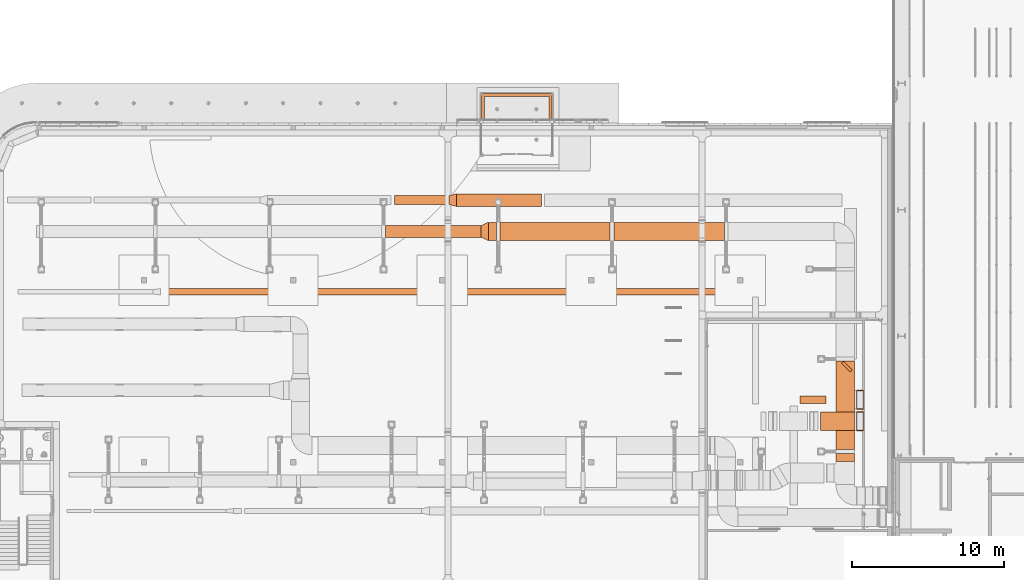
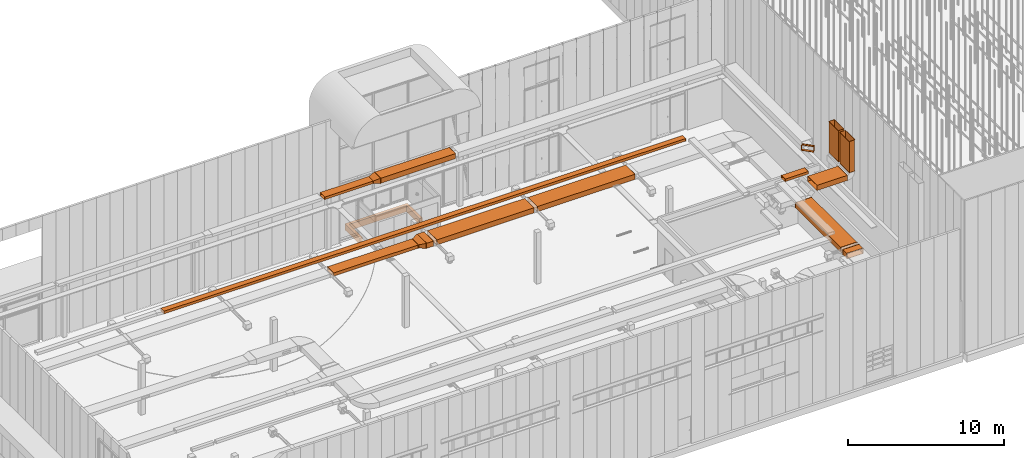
# One storey, part 300 of 302: 17 proxies.
"""IFC2X3 building model written with IfcOpenShell, lengths in metres."""

from ifc_helpers import new_model, entity, si_unit, converted_unit, derived_unit, direction, frame, origin, place, context, subcontext, project, spatial, face_set, faceted_brep, surface_model, type_object, element, save


model = new_model("IFC2X3")

# Units and contexts
model_context = context("Model", 3, precision=1e-05, world=origin(), true_north=direction((6.12303176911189e-17, 1.0)))
body_context = subcontext(model_context, "Body", "Model", "MODEL_VIEW")
ifc_project = project(units=[si_unit("LENGTHUNIT", "METRE"), si_unit("AREAUNIT", "SQUARE_METRE"), si_unit("VOLUMEUNIT", "CUBIC_METRE"), converted_unit("PLANEANGLEUNIT", "DEGREE", entity("IfcRatioMeasure", 0.0174532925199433), si_unit("PLANEANGLEUNIT", "RADIAN"), dimensions=[0, 0, 0, 0, 0, 0, 0]), si_unit("MASSUNIT", "GRAM", prefix="KILO"), derived_unit("MASSDENSITYUNIT", [(si_unit("MASSUNIT", "GRAM", prefix="KILO"), 1), (si_unit("LENGTHUNIT", "METRE"), -3)]), derived_unit("MOMENTOFINERTIAUNIT", [(si_unit("LENGTHUNIT", "METRE"), 4)]), si_unit("TIMEUNIT", "SECOND"), si_unit("FREQUENCYUNIT", "HERTZ"), si_unit("THERMODYNAMICTEMPERATUREUNIT", "DEGREE_CELSIUS"), derived_unit("THERMALTRANSMITTANCEUNIT", [(si_unit("MASSUNIT", "GRAM", prefix="KILO"), 1), (si_unit("THERMODYNAMICTEMPERATUREUNIT", "KELVIN"), -1), (si_unit("TIMEUNIT", "SECOND"), -3)]), derived_unit("VOLUMETRICFLOWRATEUNIT", [(si_unit("LENGTHUNIT", "METRE"), 3), (si_unit("TIMEUNIT", "SECOND"), -1)]), si_unit("ELECTRICCURRENTUNIT", "AMPERE"), si_unit("ELECTRICVOLTAGEUNIT", "VOLT"), si_unit("POWERUNIT", "WATT"), si_unit("FORCEUNIT", "NEWTON", prefix="KILO"), si_unit("ILLUMINANCEUNIT", "LUX"), si_unit("LUMINOUSFLUXUNIT", "LUMEN"), si_unit("LUMINOUSINTENSITYUNIT", "CANDELA"), derived_unit("USERDEFINED", [(si_unit("MASSUNIT", "GRAM", prefix="KILO"), -1), (si_unit("LENGTHUNIT", "METRE"), -2), (si_unit("TIMEUNIT", "SECOND"), 3), (si_unit("LUMINOUSFLUXUNIT", "LUMEN"), 1)]), derived_unit("LINEARVELOCITYUNIT", [(si_unit("LENGTHUNIT", "METRE"), 1), (si_unit("TIMEUNIT", "SECOND"), -1)]), si_unit("PRESSUREUNIT", "PASCAL"), derived_unit("USERDEFINED", [(si_unit("LENGTHUNIT", "METRE"), -2), (si_unit("MASSUNIT", "GRAM", prefix="KILO"), 1), (si_unit("TIMEUNIT", "SECOND"), -2)]), derived_unit("LINEARFORCEUNIT", [(si_unit("MASSUNIT", "GRAM", prefix="KILO"), 1), (si_unit("LENGTHUNIT", "METRE"), 1), (si_unit("TIMEUNIT", "SECOND"), -2), (si_unit("LENGTHUNIT", "METRE"), -1)]), derived_unit("PLANARFORCEUNIT", [(si_unit("MASSUNIT", "GRAM", prefix="KILO"), 1), (si_unit("LENGTHUNIT", "METRE"), 1), (si_unit("TIMEUNIT", "SECOND"), -2), (si_unit("LENGTHUNIT", "METRE"), -2)])], contexts=[model_context])

# Site, building, storey
site_placement = place(None, origin())
site = spatial("IfcSite", under=ifc_project, at=site_placement, Name="Default", CompositionType="ELEMENT")
building_placement = place(site_placement, origin())
building = spatial("IfcBuilding", under=site, at=building_placement, CompositionType="ELEMENT")
storey_placement = place(building_placement, frame((0.0, 0.0, -1.3)))
storey = spatial("IfcBuildingStorey", under=building, at=storey_placement, Name="00_EG", CompositionType="ELEMENT", Elevation=-1.3)

# Proxies
building_element_proxy_type_1 = type_object("IfcBuildingElementProxyType", Name="Plattenkante:Streifenfundament 200x500", PredefinedType="NOTDEFINED")
proxy_1_placement = place(storey_placement, frame((-234.569861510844, 45.738088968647, 0.469999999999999)))
element("IfcBuildingElementProxy", 1, at=proxy_1_placement, inside=storey, type_object=building_element_proxy_type_1, Name="Plattenkante:Streifenfundament 200x500", ObjectType="Plattenkante:Streifenfundament 200x500", context=body_context, shape_type="Brep", body=[
    faceted_brep([(4.63199999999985, 0.0, 0.5), (4.43199999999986, 0.0, 0.5), (4.43199999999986, 0.0, 0.0), (4.63199999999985, 0.0, 0.0), (4.63199999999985, 1.92000022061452, 0.5), (4.43199999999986, 1.72000022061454, 0.5), (4.43199999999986, 1.72000022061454, 0.0), (4.63199999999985, 1.92000022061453, 0.0), (0.0, 1.92000022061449, 0.5), (0.199999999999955, 1.72000022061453, 0.5), (0.199999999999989, 1.7200002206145, 0.0), (0.0, 1.9200002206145, 0.0), (0.0, 0.0, 0.5), (0.0, 0.0, 0.0), (0.199999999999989, 0.0, 0.0), (0.199999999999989, 0.0, 0.5)], [[[0, 1, 2, 3]], [[1, 0, 4, 5]], [[2, 1, 5, 6]], [[3, 2, 6, 7]], [[0, 3, 7, 4]], [[5, 4, 8, 9]], [[6, 5, 9, 10]], [[7, 6, 10, 11]], [[4, 7, 11, 8]], [[12, 13, 14, 15]], [[9, 8, 12, 15]], [[10, 9, 15, 14]], [[11, 10, 14, 13]], [[8, 11, 13, 12]]]),
])
building_element_proxy_type_2 = type_object("IfcBuildingElementProxyType", Name="Straight:Vorgabe", PredefinedType="NOTDEFINED")
proxy_2_placement = place(storey_placement, frame((-209.93933296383, 25.5256868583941, 9.7349997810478)))
element("IfcBuildingElementProxy", 2, at=proxy_2_placement, inside=storey, type_object=building_element_proxy_type_2, Name="Straight:Vorgabe", ObjectType="Straight:Vorgabe", context=body_context, shape_type="SurfaceModel", body=[
    surface_model("IfcFaceBasedSurfaceModel", [(0.425399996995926, 1.22540005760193, 2.4569915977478), (0.425399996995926, 1.22540005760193, 0.0), (0.0253999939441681, 1.22540005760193, 0.0), (0.0253999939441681, 1.22540005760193, 2.4569915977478), (0.0253999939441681, 0.0254000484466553, 0.0), (0.0253999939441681, 0.0254000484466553, 2.4569915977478), (0.425399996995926, 0.0254000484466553, 0.0), (0.425399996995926, 0.0254000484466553, 2.4569915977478), (0.450799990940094, 0.0, 2.45699059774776), (0.450799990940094, 1.25080010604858, 2.45699059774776), (0.0, 1.25080010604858, 2.45699059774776), (0.0, 0.0, 2.45699059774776), (0.0, 0.0, 1.1627197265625e-06), (0.0, 1.25080010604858, 1.1627197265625e-06), (0.450799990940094, 1.25080010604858, 1.1627197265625e-06), (0.450799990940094, 0.0, 1.1627197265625e-06)], [face_set([[[0, 1, 2]], [[2, 3, 0]], [[3, 2, 4]], [[4, 5, 3]], [[5, 4, 6]], [[6, 7, 5]], [[7, 6, 1]], [[1, 0, 7]], [[8, 7, 0]], [[0, 9, 8]], [[9, 0, 3]], [[3, 10, 9]], [[10, 3, 5]], [[5, 11, 10]], [[11, 5, 7]], [[7, 8, 11]], [[12, 4, 2]], [[2, 13, 12]], [[13, 2, 1]], [[1, 14, 13]], [[14, 1, 6]], [[6, 15, 14]], [[15, 6, 4]], [[4, 12, 15]]])]),
])
building_element_proxy_type_3 = type_object("IfcBuildingElementProxyType", Name="Straight:Vorgabe", PredefinedType="NOTDEFINED")
proxy_3_placement = place(storey_placement, frame((-209.93933296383, 26.929745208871, 9.7349997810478)))
element("IfcBuildingElementProxy", 3, at=proxy_3_placement, inside=storey, type_object=building_element_proxy_type_3, Name="Straight:Vorgabe", ObjectType="Straight:Vorgabe", context=body_context, shape_type="SurfaceModel", body=[
    surface_model("IfcFaceBasedSurfaceModel", [(0.425399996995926, 1.22540005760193, 2.4569915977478), (0.425399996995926, 1.22540005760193, 0.0), (0.0253999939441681, 1.22540005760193, 0.0), (0.0253999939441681, 1.22540005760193, 2.4569915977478), (0.0253999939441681, 0.0254000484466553, 0.0), (0.0253999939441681, 0.0254000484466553, 2.4569915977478), (0.425399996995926, 0.0254000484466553, 0.0), (0.425399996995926, 0.0254000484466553, 2.4569915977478), (0.450799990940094, 0.0, 2.45699059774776), (0.450799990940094, 1.25080010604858, 2.45699059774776), (0.0, 1.25080010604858, 2.45699059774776), (0.0, 0.0, 2.45699059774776), (0.0, 0.0, 1.1627197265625e-06), (0.0, 1.25080010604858, 1.1627197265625e-06), (0.450799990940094, 1.25080010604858, 1.1627197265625e-06), (0.450799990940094, 0.0, 1.1627197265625e-06)], [face_set([[[0, 1, 2]], [[2, 3, 0]], [[3, 2, 4]], [[4, 5, 3]], [[5, 4, 6]], [[6, 7, 5]], [[7, 6, 1]], [[1, 0, 7]], [[8, 7, 0]], [[0, 9, 8]], [[9, 0, 3]], [[3, 10, 9]], [[10, 3, 5]], [[5, 11, 10]], [[11, 5, 7]], [[7, 8, 11]], [[12, 4, 2]], [[2, 13, 12]], [[13, 2, 1]], [[1, 14, 13]], [[14, 1, 6]], [[6, 15, 14]], [[15, 6, 4]], [[4, 12, 15]]])]),
])
building_element_proxy_type_4 = type_object("IfcBuildingElementProxyType", Name="Transition:Vorgabe", PredefinedType="NOTDEFINED")
proxy_4_placement = place(storey_placement, frame((-234.593503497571, 37.9828257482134, 4.68460000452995)))
element("IfcBuildingElementProxy", 4, at=proxy_4_placement, inside=storey, type_object=building_element_proxy_type_4, Name="Transition:Vorgabe", ObjectType="Transition:Vorgabe", context=body_context, shape_type="SurfaceModel", body=[
    surface_model("IfcFaceBasedSurfaceModel", [(0.450000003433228, 1.22540005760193, 0.425399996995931), (0.0500000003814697, 1.02540005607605, 0.350399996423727), (0.0500000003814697, 0.225400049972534, 0.350399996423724), (0.450000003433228, 0.0254000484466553, 0.425399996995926), (0.450000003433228, 0.0254000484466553, 0.0253999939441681), (0.0500000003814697, 0.225400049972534, 0.100399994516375), (0.0500000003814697, 1.02540005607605, 0.100399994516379), (0.450000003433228, 1.22540005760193, 0.0253999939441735), (0.500000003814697, 0.0254000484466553, 0.425399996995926), (0.500000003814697, 1.22540005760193, 0.425399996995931), (0.0, 1.02540005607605, 0.350399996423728), (0.0, 0.225400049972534, 0.350399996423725), (0.500000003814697, 1.22540005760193, 0.0253999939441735), (0.500000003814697, 0.0254000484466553, 0.0253999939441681), (0.0, 0.225400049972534, 0.100399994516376), (0.0, 1.02540005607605, 0.100399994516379), (0.499999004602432, 1.25080010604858, 0.0), (0.499999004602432, 1.25080010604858, 0.450799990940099), (0.499999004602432, 0.0, 0.450799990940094), (0.499999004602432, 0.0, 0.0), (1.01737976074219e-06, 0.200000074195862, 0.0750000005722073), (1.01737976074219e-06, 0.200000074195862, 0.375799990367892), (1.01737976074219e-06, 1.05080003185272, 0.375799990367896), (1.01737976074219e-06, 1.05080003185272, 0.0750000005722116)], [face_set([[[0, 1, 2]], [[2, 3, 0]], [[4, 5, 6]], [[6, 7, 4]], [[3, 2, 5]], [[5, 4, 3]], [[7, 6, 1]], [[1, 0, 7]], [[0, 3, 8]], [[8, 9, 0]], [[1, 10, 11]], [[11, 2, 1]], [[12, 13, 4]], [[4, 7, 12]], [[5, 14, 15]], [[15, 6, 5]], [[3, 4, 13]], [[13, 8, 3]], [[2, 11, 14]], [[14, 5, 2]], [[9, 12, 7]], [[7, 0, 9]], [[6, 15, 10]], [[10, 1, 6]], [[16, 12, 9]], [[9, 17, 16]], [[17, 9, 8]], [[8, 18, 17]], [[18, 8, 13]], [[13, 19, 18]], [[19, 13, 12]], [[12, 16, 19]], [[20, 14, 11]], [[11, 21, 20]], [[21, 11, 10]], [[10, 22, 21]], [[22, 10, 15]], [[15, 23, 22]], [[23, 15, 14]], [[14, 20, 23]]])]),
])
building_element_proxy_type_5 = type_object("IfcBuildingElementProxyType", Name="Straight:Vorgabe", PredefinedType="NOTDEFINED")
proxy_5_placement = place(storey_placement, frame((-234.093503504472, 37.9828257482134, 4.68460000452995)))
element("IfcBuildingElementProxy", 5, at=proxy_5_placement, inside=storey, type_object=building_element_proxy_type_5, Name="Straight:Vorgabe", ObjectType="Straight:Vorgabe", context=body_context, shape_type="SurfaceModel", body=[
    surface_model("IfcFaceBasedSurfaceModel", [(0.502857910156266, 1.22540005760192, 0.425399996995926), (1.39236614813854e-08, 1.22540005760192, 0.425399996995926), (1.39236614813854e-08, 0.0254000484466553, 0.425399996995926), (0.502857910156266, 0.0254000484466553, 0.425399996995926), (1.39236614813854e-08, 0.0254000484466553, 0.0253999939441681), (0.502857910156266, 0.0254000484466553, 0.0253999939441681), (1.39236614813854e-08, 1.22540005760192, 0.0253999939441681), (0.502857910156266, 1.22540005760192, 0.0253999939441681), (0.502856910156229, 1.25080010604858, 0.0), (0.502856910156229, 1.25080010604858, 0.450799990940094), (0.502856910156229, 0.0, 0.450799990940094), (0.502856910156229, 0.0, 0.0), (9.94968430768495e-07, 0.0, 0.0), (9.94968430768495e-07, 0.0, 0.450799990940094), (9.94968430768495e-07, 1.25080010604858, 0.450799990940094), (9.94968430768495e-07, 1.25080010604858, 0.0)], [face_set([[[0, 1, 2]], [[2, 3, 0]], [[3, 2, 4]], [[4, 5, 3]], [[5, 4, 6]], [[6, 7, 5]], [[7, 6, 1]], [[1, 0, 7]], [[8, 7, 0]], [[0, 9, 8]], [[9, 0, 3]], [[3, 10, 9]], [[10, 3, 5]], [[5, 11, 10]], [[11, 5, 7]], [[7, 8, 11]], [[12, 4, 2]], [[2, 13, 12]], [[13, 2, 1]], [[1, 14, 13]], [[14, 1, 6]], [[6, 15, 14]], [[15, 6, 4]], [[4, 12, 15]]])]),
])
building_element_proxy_type_6 = type_object("IfcBuildingElementProxyType", Name="Straight:Vorgabe", PredefinedType="NOTDEFINED")
proxy_6_placement = place(storey_placement, frame((-240.879454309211, 38.1828258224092, 4.75960000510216)))
element("IfcBuildingElementProxy", 6, at=proxy_6_placement, inside=storey, type_object=building_element_proxy_type_6, Name="Straight:Vorgabe", ObjectType="Straight:Vorgabe", context=body_context, shape_type="SurfaceModel", body=[
    surface_model("IfcFaceBasedSurfaceModel", [(6.28595081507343, 0.825399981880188, 0.275399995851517), (2.0014423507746e-07, 0.825399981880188, 0.275399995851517), (2.0014423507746e-07, 0.0253999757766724, 0.275399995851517), (6.28595081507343, 0.0253999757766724, 0.275399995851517), (2.0014423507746e-07, 0.0253999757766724, 0.0253999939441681), (6.28595081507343, 0.0253999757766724, 0.0253999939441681), (2.0014423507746e-07, 0.825399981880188, 0.0253999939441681), (6.28595081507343, 0.825399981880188, 0.0253999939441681), (6.2859498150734, 0.85079995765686, 0.0), (6.2859498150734, 0.85079995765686, 0.300799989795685), (6.2859498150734, 0.0, 0.300799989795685), (6.2859498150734, 0.0, 0.0), (1.36286396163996e-06, 0.0, 0.0), (1.36286396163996e-06, 0.0, 0.300799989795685), (1.36286396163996e-06, 0.85079995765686, 0.300799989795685), (1.36286396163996e-06, 0.85079995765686, 0.0)], [face_set([[[0, 1, 2]], [[2, 3, 0]], [[3, 2, 4]], [[4, 5, 3]], [[5, 4, 6]], [[6, 7, 5]], [[7, 6, 1]], [[1, 0, 7]], [[8, 7, 0]], [[0, 9, 8]], [[9, 0, 3]], [[3, 10, 9]], [[10, 3, 5]], [[5, 11, 10]], [[11, 5, 7]], [[7, 8, 11]], [[12, 4, 2]], [[2, 13, 12]], [[13, 2, 1]], [[1, 14, 13]], [[14, 1, 6]], [[6, 15, 14]], [[15, 6, 4]], [[4, 12, 15]]])]),
])
building_element_proxy_type_7 = type_object("IfcBuildingElementProxyType", Name="Straight:Vorgabe", PredefinedType="NOTDEFINED")
proxy_7_placement = place(storey_placement, frame((-233.340645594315, 37.9828257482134, 4.68460000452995)))
element("IfcBuildingElementProxy", 7, at=proxy_7_placement, inside=storey, type_object=building_element_proxy_type_7, Name="Straight:Vorgabe", ObjectType="Straight:Vorgabe", context=body_context, shape_type="SurfaceModel", body=[
    surface_model("IfcFaceBasedSurfaceModel", [(0.0, 0.0254000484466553, 0.425399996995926), (7.21125343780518, 0.0254000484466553, 0.425399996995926), (7.21125343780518, 1.22540005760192, 0.425399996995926), (0.0, 1.22540005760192, 0.425399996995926), (7.21125343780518, 1.22540005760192, 0.0253999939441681), (0.0, 1.22540005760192, 0.0253999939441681), (7.21125343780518, 0.0254000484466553, 0.0253999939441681), (0.0, 0.0254000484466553, 0.0253999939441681), (1.00000003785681e-06, 0.0, 0.0), (1.00000003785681e-06, 0.0, 0.450799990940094), (1.00000003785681e-06, 1.25080010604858, 0.450799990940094), (1.00000003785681e-06, 1.25080010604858, 0.0), (7.21125227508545, 1.25080010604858, 0.0), (7.21125227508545, 1.25080010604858, 0.450799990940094), (7.21125227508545, 0.0, 0.450799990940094), (7.21125227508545, 0.0, 0.0)], [face_set([[[0, 1, 2]], [[2, 3, 0]], [[3, 2, 4]], [[4, 5, 3]], [[5, 4, 6]], [[6, 7, 5]], [[7, 6, 1]], [[1, 0, 7]], [[8, 7, 0]], [[0, 9, 8]], [[9, 0, 3]], [[3, 10, 9]], [[10, 3, 5]], [[5, 11, 10]], [[11, 5, 7]], [[7, 8, 11]], [[12, 4, 2]], [[2, 13, 12]], [[13, 2, 1]], [[1, 14, 13]], [[14, 1, 6]], [[6, 15, 14]], [[15, 6, 4]], [[4, 12, 15]]])]),
])
building_element_proxy_type_8 = type_object("IfcBuildingElementProxyType", Name="Straight:Vorgabe", PredefinedType="NOTDEFINED")
proxy_8_placement = place(storey_placement, frame((-225.879392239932, 37.9828257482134, 4.68460000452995)))
element("IfcBuildingElementProxy", 8, at=proxy_8_placement, inside=storey, type_object=building_element_proxy_type_8, Name="Straight:Vorgabe", ObjectType="Straight:Vorgabe", context=body_context, shape_type="SurfaceModel", body=[
    surface_model("IfcFaceBasedSurfaceModel", [(7.2535566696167, 1.22540005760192, 0.425399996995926), (0.0, 1.22540005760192, 0.425399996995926), (0.0, 0.0254000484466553, 0.425399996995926), (7.2535566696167, 0.0254000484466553, 0.425399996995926), (0.0, 0.0254000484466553, 0.0253999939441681), (7.2535566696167, 0.0254000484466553, 0.0253999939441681), (0.0, 1.22540005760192, 0.0253999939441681), (7.2535566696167, 1.22540005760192, 0.0253999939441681), (7.25355566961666, 1.25080010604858, 0.0), (7.25355566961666, 1.25080010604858, 0.450799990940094), (7.25355566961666, 0.0, 0.450799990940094), (7.25355566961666, 0.0, 0.0), (1.74407958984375e-06, 0.0, 0.0), (1.74407958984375e-06, 0.0, 0.450799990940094), (1.74407958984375e-06, 1.25080010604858, 0.450799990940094), (1.74407958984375e-06, 1.25080010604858, 0.0)], [face_set([[[0, 1, 2]], [[2, 3, 0]], [[3, 2, 4]], [[4, 5, 3]], [[5, 4, 6]], [[6, 7, 5]], [[7, 6, 1]], [[1, 0, 7]], [[8, 7, 0]], [[0, 9, 8]], [[9, 0, 3]], [[3, 10, 9]], [[10, 3, 5]], [[5, 11, 10]], [[11, 5, 7]], [[7, 8, 11]], [[12, 4, 2]], [[2, 13, 12]], [[13, 2, 1]], [[1, 14, 13]], [[14, 1, 6]], [[6, 15, 14]], [[15, 6, 4]], [[4, 12, 15]]])]),
])
building_element_proxy_type_9 = type_object("IfcBuildingElementProxyType", Name="Straight:Vorgabe", PredefinedType="NOTDEFINED")
proxy_9_placement = place(storey_placement, frame((-211.304940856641, 24.2802444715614, 4.68460000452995)))
element("IfcBuildingElementProxy", 9, at=proxy_9_placement, inside=storey, type_object=building_element_proxy_type_9, Name="Straight:Vorgabe", ObjectType="Straight:Vorgabe", context=body_context, shape_type="SurfaceModel", body=[
    surface_model("IfcFaceBasedSurfaceModel", [(0.0254000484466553, 5.83208855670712, 0.425399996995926), (0.0254000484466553, 3.54802818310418e-07, 0.425399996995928), (1.22540005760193, 3.54802818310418e-07, 0.425399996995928), (1.22540005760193, 5.83208855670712, 0.425399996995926), (1.22540005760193, 3.54802818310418e-07, 0.0253999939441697), (1.22540005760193, 5.83208855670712, 0.0253999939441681), (0.0254000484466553, 3.54802818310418e-07, 0.0253999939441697), (0.0254000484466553, 5.83208855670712, 0.0253999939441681), (0.0, 5.83208755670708, 0.0), (0.0, 5.83208755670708, 0.450799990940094), (1.25080010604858, 5.83208755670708, 0.450799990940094), (1.25080010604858, 5.83208755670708, 0.0), (1.25080010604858, 9.36162681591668e-07, 0.0), (1.25080010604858, 9.36162681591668e-07, 0.450799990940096), (0.0, 9.36162681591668e-07, 0.450799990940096), (0.0, 9.36162681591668e-07, 0.0)], [face_set([[[0, 1, 2]], [[2, 3, 0]], [[3, 2, 4]], [[4, 5, 3]], [[5, 4, 6]], [[6, 7, 5]], [[7, 6, 1]], [[1, 0, 7]], [[8, 7, 0]], [[0, 9, 8]], [[9, 0, 3]], [[3, 10, 9]], [[10, 3, 5]], [[5, 11, 10]], [[11, 5, 7]], [[7, 8, 11]], [[12, 4, 2]], [[2, 13, 12]], [[13, 2, 1]], [[1, 14, 13]], [[14, 1, 6]], [[6, 15, 14]], [[15, 6, 4]], [[4, 12, 15]]])]),
])
building_element_proxy_type_10 = type_object("IfcBuildingElementProxyType", Name="Straight:Vorgabe", PredefinedType="NOTDEFINED")
proxy_10_placement = place(storey_placement, frame((-211.304940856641, 23.4990213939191, 4.68460000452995)))
element("IfcBuildingElementProxy", 10, at=proxy_10_placement, inside=storey, type_object=building_element_proxy_type_10, Name="Straight:Vorgabe", ObjectType="Straight:Vorgabe", context=body_context, shape_type="SurfaceModel", body=[
    surface_model("IfcFaceBasedSurfaceModel", [(1.22540005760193, 0.0, 0.425399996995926), (1.22540005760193, 0.531223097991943, 0.425399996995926), (0.0254000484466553, 0.531223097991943, 0.425399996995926), (0.0254000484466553, 0.0, 0.425399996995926), (0.0254000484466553, 0.531223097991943, 0.0253999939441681), (0.0254000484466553, 0.0, 0.0253999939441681), (1.22540005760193, 0.531223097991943, 0.0253999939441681), (1.22540005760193, 0.0, 0.0253999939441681), (1.25080010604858, 1.00000003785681e-06, 0.0), (1.25080010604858, 1.00000003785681e-06, 0.450799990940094), (0.0, 1.00000003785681e-06, 0.450799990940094), (0.0, 1.00000003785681e-06, 0.0), (0.0, 0.531222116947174, 0.0), (0.0, 0.531222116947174, 0.450799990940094), (1.25080010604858, 0.531222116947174, 0.450799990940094), (1.25080010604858, 0.531222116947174, 0.0)], [face_set([[[0, 1, 2]], [[2, 3, 0]], [[3, 2, 4]], [[4, 5, 3]], [[5, 4, 6]], [[6, 7, 5]], [[7, 6, 1]], [[1, 0, 7]], [[8, 7, 0]], [[0, 9, 8]], [[9, 0, 3]], [[3, 10, 9]], [[10, 3, 5]], [[5, 11, 10]], [[11, 5, 7]], [[7, 8, 11]], [[12, 4, 2]], [[2, 13, 12]], [[13, 2, 1]], [[1, 14, 13]], [[14, 1, 6]], [[6, 15, 14]], [[15, 6, 4]], [[4, 12, 15]]])]),
])
building_element_proxy_type_11 = type_object("IfcBuildingElementProxyType", Name="Straight:Vorgabe", PredefinedType="NOTDEFINED")
proxy_11_placement = place(storey_placement, frame((-212.316626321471, 25.5256868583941, 9.15460000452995)))
element("IfcBuildingElementProxy", 11, at=proxy_11_placement, inside=storey, type_object=building_element_proxy_type_11, Name="Straight:Vorgabe", ObjectType="Straight:Vorgabe", context=body_context, shape_type="SurfaceModel", body=[
    surface_model("IfcFaceBasedSurfaceModel", [(0.0, 0.0254000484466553, 0.425399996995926), (2.2476933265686, 0.0254000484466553, 0.425399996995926), (2.2476933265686, 1.22540005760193, 0.425399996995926), (0.0, 1.22540005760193, 0.425399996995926), (2.2476933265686, 1.22540005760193, 0.0253999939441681), (0.0, 1.22540005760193, 0.0253999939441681), (2.2476933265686, 0.0254000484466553, 0.0253999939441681), (0.0, 0.0254000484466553, 0.0253999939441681), (1.00000003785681e-06, 0.0, 0.0), (1.00000003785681e-06, 0.0, 0.450799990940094), (1.00000003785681e-06, 1.25080010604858, 0.450799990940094), (1.00000003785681e-06, 1.25080010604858, 0.0), (2.24769245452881, 1.25080010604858, 0.0), (2.24769245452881, 1.25080010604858, 0.450799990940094), (2.24769245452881, 0.0, 0.450799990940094), (2.24769245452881, 0.0, 0.0)], [face_set([[[0, 1, 2]], [[2, 3, 0]], [[3, 2, 4]], [[4, 5, 3]], [[5, 4, 6]], [[6, 7, 5]], [[7, 6, 1]], [[1, 0, 7]], [[8, 7, 0]], [[0, 9, 8]], [[9, 0, 3]], [[3, 10, 9]], [[10, 3, 5]], [[5, 11, 10]], [[11, 5, 7]], [[7, 8, 11]], [[12, 4, 2]], [[2, 13, 12]], [[13, 2, 1]], [[1, 14, 13]], [[14, 1, 6]], [[6, 15, 14]], [[15, 6, 4]], [[4, 12, 15]]])]),
])
building_element_proxy_type_12 = type_object("IfcBuildingElementProxyType", Name="Straight:Vorgabe", PredefinedType="NOTDEFINED")
proxy_12_placement = place(storey_placement, frame((-210.940998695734, 29.3677863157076, 9.15460000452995)))
element("IfcBuildingElementProxy", 12, at=proxy_12_placement, inside=storey, type_object=building_element_proxy_type_12, Name="Straight:Vorgabe", ObjectType="Straight:Vorgabe", context=body_context, shape_type="SurfaceModel", body=[
    surface_model("IfcFaceBasedSurfaceModel", [(0.583645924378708, 0.017960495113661, 0.42539999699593), (0.707477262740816, 0.141791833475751, 0.425399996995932), (0.141791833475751, 0.707477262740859, 0.425399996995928), (0.0179604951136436, 0.583645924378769, 0.425399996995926), (0.141791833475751, 0.707477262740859, 0.0253999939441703), (0.0179604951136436, 0.583645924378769, 0.0253999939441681), (0.707477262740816, 0.141791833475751, 0.0253999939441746), (0.583645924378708, 0.017960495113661, 0.0253999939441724), (0.601607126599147, 7.07106808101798e-07, 0.0), (0.601607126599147, 7.07106808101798e-07, 0.450799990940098), (7.07106795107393e-07, 0.601607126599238, 0.450799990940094), (7.07106795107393e-07, 0.601607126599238, 0.0), (0.123830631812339, 0.725437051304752, 0.0), (0.123830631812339, 0.725437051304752, 0.450799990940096), (0.725437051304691, 0.123830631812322, 0.450799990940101), (0.725437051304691, 0.123830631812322, 0.0)], [face_set([[[0, 1, 2]], [[2, 3, 0]], [[3, 2, 4]], [[4, 5, 3]], [[5, 4, 6]], [[6, 7, 5]], [[7, 6, 1]], [[1, 0, 7]], [[8, 7, 0]], [[0, 9, 8]], [[9, 0, 3]], [[3, 10, 9]], [[10, 3, 5]], [[5, 11, 10]], [[11, 5, 7]], [[7, 8, 11]], [[12, 4, 2]], [[2, 13, 12]], [[13, 2, 1]], [[1, 14, 13]], [[14, 1, 6]], [[6, 15, 14]], [[15, 6, 4]], [[4, 12, 15]]])]),
])
building_element_proxy_type_13 = type_object("IfcBuildingElementProxyType", Name="Transition:Vorgabe", PredefinedType="NOTDEFINED")
proxy_13_placement = place(storey_placement, frame((-236.695542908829, 40.2346826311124, 9.15460000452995)))
element("IfcBuildingElementProxy", 13, at=proxy_13_placement, inside=storey, type_object=building_element_proxy_type_13, Name="Transition:Vorgabe", ObjectType="Transition:Vorgabe", context=body_context, shape_type="SurfaceModel", body=[
    surface_model("IfcFaceBasedSurfaceModel", [(0.450000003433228, 0.825399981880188, 0.425399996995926), (0.0500000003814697, 0.725399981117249, 0.325399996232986), (0.0500000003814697, 0.125399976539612, 0.325399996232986), (0.450000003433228, 0.0253999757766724, 0.425399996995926), (0.450000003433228, 0.0253999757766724, 0.0253999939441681), (0.0500000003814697, 0.125399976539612, 0.125399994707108), (0.0500000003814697, 0.725399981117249, 0.125399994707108), (0.450000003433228, 0.825399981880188, 0.0253999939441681), (0.500000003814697, 0.0253999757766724, 0.425399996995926), (0.500000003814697, 0.825399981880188, 0.425399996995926), (0.0, 0.725399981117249, 0.325399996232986), (0.0, 0.125399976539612, 0.325399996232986), (0.500000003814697, 0.825399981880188, 0.0253999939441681), (0.500000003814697, 0.0253999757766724, 0.0253999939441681), (0.0, 0.125399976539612, 0.125399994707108), (0.0, 0.725399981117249, 0.125399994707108), (0.499999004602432, 0.85079995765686, 0.0), (0.499999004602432, 0.85079995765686, 0.450799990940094), (0.499999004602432, 0.0, 0.450799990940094), (0.499999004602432, 0.0, 0.0), (1.01737976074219e-06, 0.100000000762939, 0.0999999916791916), (1.01737976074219e-06, 0.100000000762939, 0.350799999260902), (1.01737976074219e-06, 0.750799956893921, 0.350799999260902), (1.01737976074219e-06, 0.750799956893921, 0.0999999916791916)], [face_set([[[0, 1, 2]], [[2, 3, 0]], [[4, 5, 6]], [[6, 7, 4]], [[3, 2, 5]], [[5, 4, 3]], [[7, 6, 1]], [[1, 0, 7]], [[0, 3, 8]], [[8, 9, 0]], [[1, 10, 11]], [[11, 2, 1]], [[12, 13, 4]], [[4, 7, 12]], [[5, 14, 15]], [[15, 6, 5]], [[3, 4, 13]], [[13, 8, 3]], [[2, 11, 14]], [[14, 5, 2]], [[9, 12, 7]], [[7, 0, 9]], [[6, 15, 10]], [[10, 1, 6]], [[16, 12, 9]], [[9, 17, 16]], [[17, 9, 8]], [[8, 18, 17]], [[18, 8, 13]], [[13, 19, 18]], [[19, 13, 12]], [[12, 16, 19]], [[20, 14, 11]], [[11, 21, 20]], [[21, 11, 10]], [[10, 22, 21]], [[22, 10, 15]], [[15, 23, 22]], [[23, 15, 14]], [[14, 20, 23]]])]),
])
building_element_proxy_type_14 = type_object("IfcBuildingElementProxyType", Name="Straight:Vorgabe", PredefinedType="NOTDEFINED")
proxy_14_placement = place(storey_placement, frame((-236.195543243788, 40.2346826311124, 9.15460000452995)))
element("IfcBuildingElementProxy", 14, at=proxy_14_placement, inside=storey, type_object=building_element_proxy_type_14, Name="Straight:Vorgabe", ObjectType="Straight:Vorgabe", context=body_context, shape_type="SurfaceModel", body=[
    surface_model("IfcFaceBasedSurfaceModel", [(5.5555021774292, 0.825399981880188, 0.425399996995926), (0.0, 0.825399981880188, 0.425399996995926), (0.0, 0.0253999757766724, 0.425399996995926), (5.5555021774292, 0.0253999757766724, 0.425399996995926), (0.0, 0.0253999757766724, 0.0253999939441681), (5.5555021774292, 0.0253999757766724, 0.0253999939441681), (0.0, 0.825399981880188, 0.0253999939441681), (5.5555021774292, 0.825399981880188, 0.0253999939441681), (5.55550117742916, 0.85079995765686, 0.0), (5.55550117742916, 0.85079995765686, 0.450799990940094), (5.55550117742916, 0.0, 0.450799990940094), (5.55550117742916, 0.0, 0.0), (1.1627197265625e-06, 0.0, 0.0), (1.1627197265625e-06, 0.0, 0.450799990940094), (1.1627197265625e-06, 0.85079995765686, 0.450799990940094), (1.1627197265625e-06, 0.85079995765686, 0.0)], [face_set([[[0, 1, 2]], [[2, 3, 0]], [[3, 2, 4]], [[4, 5, 3]], [[5, 4, 6]], [[6, 7, 5]], [[7, 6, 1]], [[1, 0, 7]], [[8, 7, 0]], [[0, 9, 8]], [[9, 0, 3]], [[3, 10, 9]], [[10, 3, 5]], [[5, 11, 10]], [[11, 5, 7]], [[7, 8, 11]], [[12, 4, 2]], [[2, 13, 12]], [[13, 2, 1]], [[1, 14, 13]], [[14, 1, 6]], [[6, 15, 14]], [[15, 6, 4]], [[4, 12, 15]]])]),
])
building_element_proxy_type_15 = type_object("IfcBuildingElementProxyType", Name="Straight:Vorgabe", PredefinedType="NOTDEFINED")
proxy_15_placement = place(storey_placement, frame((-240.29332952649, 40.3346826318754, 9.25459999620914)))
element("IfcBuildingElementProxy", 15, at=proxy_15_placement, inside=storey, type_object=building_element_proxy_type_15, Name="Straight:Vorgabe", ObjectType="Straight:Vorgabe", context=body_context, shape_type="SurfaceModel", body=[
    surface_model("IfcFaceBasedSurfaceModel", [(3.59778662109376, 0.625399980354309, 0.225400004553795), (1.21307384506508e-07, 0.625399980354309, 0.225400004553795), (1.21307384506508e-07, 0.0253999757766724, 0.225400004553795), (3.59778662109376, 0.0253999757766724, 0.225400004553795), (1.21307384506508e-07, 0.0253999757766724, 0.025400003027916), (3.59778662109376, 0.0253999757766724, 0.025400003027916), (1.21307384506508e-07, 0.625399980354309, 0.025400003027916), (3.59778662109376, 0.625399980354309, 0.025400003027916), (3.59778562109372, 0.650799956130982, 0.0), (3.59778562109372, 0.650799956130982, 0.250800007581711), (3.59778562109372, 0.0, 0.250800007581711), (3.59778562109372, 0.0, 0.0), (9.93347179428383e-07, 0.0, 0.0), (9.93347179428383e-07, 0.0, 0.250800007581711), (9.93347179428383e-07, 0.650799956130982, 0.250800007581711), (9.93347179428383e-07, 0.650799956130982, 0.0)], [face_set([[[0, 1, 2]], [[2, 3, 0]], [[3, 2, 4]], [[4, 5, 3]], [[5, 4, 6]], [[6, 7, 5]], [[7, 6, 1]], [[1, 0, 7]], [[8, 7, 0]], [[0, 9, 8]], [[9, 0, 3]], [[3, 10, 9]], [[10, 3, 5]], [[5, 11, 10]], [[11, 5, 7]], [[7, 8, 11]], [[12, 4, 2]], [[2, 13, 12]], [[13, 2, 1]], [[1, 14, 13]], [[14, 1, 6]], [[6, 15, 14]], [[15, 6, 4]], [[4, 12, 15]]])]),
])
building_element_proxy_type_16 = type_object("IfcBuildingElementProxyType", Name="Straight:Vorgabe", PredefinedType="NOTDEFINED")
proxy_16_placement = place(storey_placement, frame((-213.662928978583, 27.2797452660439, 9.25459999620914)))
element("IfcBuildingElementProxy", 16, at=proxy_16_placement, inside=storey, type_object=building_element_proxy_type_16, Name="Straight:Vorgabe", ObjectType="Straight:Vorgabe", context=body_context, shape_type="SurfaceModel", body=[
    surface_model("IfcFaceBasedSurfaceModel", [(0.0, 0.0253999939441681, 0.225400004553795), (1.72399593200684, 0.0253999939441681, 0.225400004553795), (1.72399593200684, 0.525399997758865, 0.225400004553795), (0.0, 0.525399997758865, 0.225400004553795), (1.72399593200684, 0.525399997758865, 0.025400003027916), (0.0, 0.525399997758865, 0.025400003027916), (1.72399593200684, 0.0253999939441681, 0.025400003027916), (0.0, 0.0253999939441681, 0.025400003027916), (1.00000003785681e-06, 0.0, 0.0), (1.00000003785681e-06, 0.0, 0.250800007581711), (1.00000003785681e-06, 0.550799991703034, 0.250800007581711), (1.00000003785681e-06, 0.550799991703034, 0.0), (1.72399505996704, 0.550799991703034, 0.0), (1.72399505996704, 0.550799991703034, 0.250800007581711), (1.72399505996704, 0.0, 0.250800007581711), (1.72399505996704, 0.0, 0.0)], [face_set([[[0, 1, 2]], [[2, 3, 0]], [[3, 2, 4]], [[4, 5, 3]], [[5, 4, 6]], [[6, 7, 5]], [[7, 6, 1]], [[1, 0, 7]], [[8, 7, 0]], [[0, 9, 8]], [[9, 0, 3]], [[3, 10, 9]], [[10, 3, 5]], [[5, 11, 10]], [[11, 5, 7]], [[7, 8, 11]], [[12, 4, 2]], [[2, 13, 12]], [[13, 2, 1]], [[1, 14, 13]], [[14, 1, 6]], [[6, 15, 14]], [[15, 6, 4]], [[4, 12, 15]]])]),
])
building_element_proxy_type_17 = type_object("IfcBuildingElementProxyType", Name="Straight:Vorgabe", PredefinedType="NOTDEFINED")
proxy_17_placement = place(storey_placement, frame((-255.637315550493, 34.4193624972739, 9.2545999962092)))
element("IfcBuildingElementProxy", 17, at=proxy_17_placement, inside=storey, type_object=building_element_proxy_type_17, Name="Straight:Vorgabe", ObjectType="Straight:Vorgabe", context=body_context, shape_type="SurfaceModel", body=[
    surface_model("IfcFaceBasedSurfaceModel", [(38.7150941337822, 0.425399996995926, 0.225400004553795), (1.44579391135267e-06, 0.42539999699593, 0.225400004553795), (1.44579391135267e-06, 0.0253999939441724, 0.225400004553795), (38.7150941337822, 0.0253999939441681, 0.225400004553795), (1.44579391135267e-06, 0.0253999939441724, 0.025400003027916), (38.7150941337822, 0.0253999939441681, 0.025400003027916), (1.44579391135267e-06, 0.42539999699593, 0.025400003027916), (38.7150941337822, 0.425399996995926, 0.025400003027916), (38.7150931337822, 0.450799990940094, 0.0), (38.7150931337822, 0.450799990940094, 0.250800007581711), (38.7150931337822, 0.0, 0.250800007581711), (38.7150931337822, 0.0, 0.0), (1.44579391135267e-06, 0.0, 0.0), (1.44579391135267e-06, 0.0, 0.250800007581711), (1.44579391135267e-06, 0.450799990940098, 0.250800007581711), (1.44579391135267e-06, 0.450799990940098, 0.0)], [face_set([[[0, 1, 2]], [[2, 3, 0]], [[3, 2, 4]], [[4, 5, 3]], [[5, 4, 6]], [[6, 7, 5]], [[7, 6, 1]], [[1, 0, 7]], [[8, 7, 0]], [[0, 9, 8]], [[9, 0, 3]], [[3, 10, 9]], [[10, 3, 5]], [[5, 11, 10]], [[11, 5, 7]], [[7, 8, 11]], [[12, 4, 2]], [[2, 13, 12]], [[13, 2, 1]], [[1, 14, 13]], [[14, 1, 6]], [[6, 15, 14]], [[15, 6, 4]], [[4, 12, 15]]])]),
])

save(model, "model.ifc")
